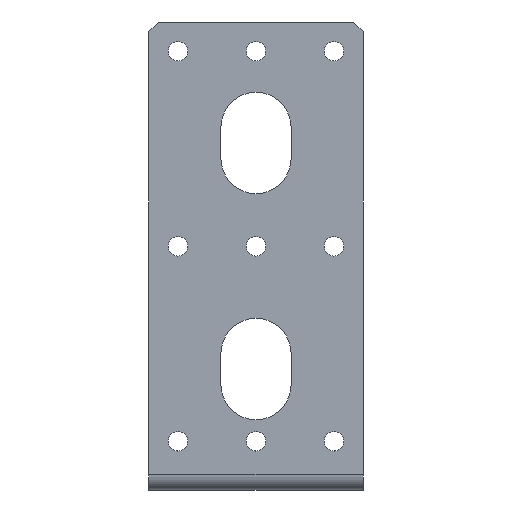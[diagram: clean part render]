
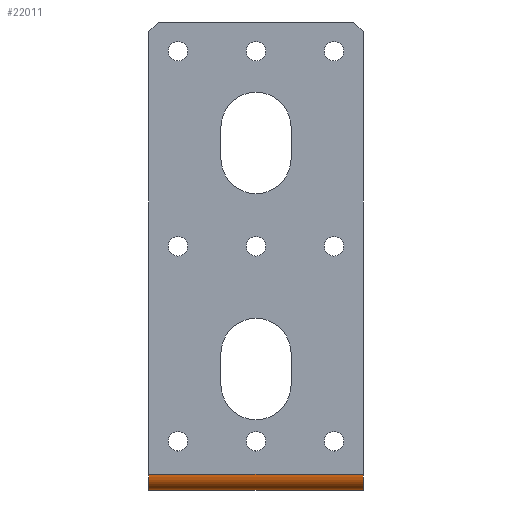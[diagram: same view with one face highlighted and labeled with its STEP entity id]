
A CAD part, front view. The second image highlights one B-rep face of the part: STEP entity #22011.
In plain terms, the highlighted cylindrical face has radius 4 mm (diameter 8 mm), a partial arc.
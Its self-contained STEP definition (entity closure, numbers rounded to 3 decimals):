
#2995 = ORIENTED_EDGE ( 'NONE', *, *, #13967, .T. ) ;
#5041 = DIRECTION ( 'NONE',  ( -1., 0., 0. ) ) ;
#5213 = CIRCLE ( 'NONE', #32818, 4. ) ;
#6012 = VERTEX_POINT ( 'NONE', #11774 ) ;
#6683 = AXIS2_PLACEMENT_3D ( 'NONE', #25290, #30699, #12289 ) ;
#8189 = LINE ( 'NONE', #32408, #17736 ) ;
#8547 = VERTEX_POINT ( 'NONE', #32555 ) ;
#10397 = EDGE_CURVE ( 'NONE', #14605, #15889, #30469, .T. ) ;
#11154 = DIRECTION ( 'NONE',  ( 0., -1., 0. ) ) ;
#11757 = ORIENTED_EDGE ( 'NONE', *, *, #10397, .T. ) ;
#11774 = CARTESIAN_POINT ( 'NONE',  ( 27.5, -134.758, -58.758 ) ) ;
#12094 = LINE ( 'NONE', #34432, #21631 ) ;
#12289 = DIRECTION ( 'NONE',  ( 0., -1., 0. ) ) ;
#12633 = CARTESIAN_POINT ( 'NONE',  ( -27.5, -134.758, -58.758 ) ) ;
#13967 = EDGE_CURVE ( 'NONE', #6012, #8547, #5213, .T. ) ;
#14605 = VERTEX_POINT ( 'NONE', #17010 ) ;
#15219 = DIRECTION ( 'NONE',  ( -1., 0., 0. ) ) ;
#15889 = VERTEX_POINT ( 'NONE', #12633 ) ;
#17010 = CARTESIAN_POINT ( 'NONE',  ( -27.5, -138.758, -54.758 ) ) ;
#17736 = VECTOR ( 'NONE', #35375, 1000. ) ;
#21631 = VECTOR ( 'NONE', #15219, 1000. ) ;
#21674 = CARTESIAN_POINT ( 'NONE',  ( 27.5, -134.758, -54.758 ) ) ;
#22011 = ADVANCED_FACE ( 'NONE', ( #24163 ), #25435, .T. ) ;
#22327 = AXIS2_PLACEMENT_3D ( 'NONE', #24652, #25004, #11154 ) ;
#24163 = FACE_OUTER_BOUND ( 'NONE', #26569, .T. ) ;
#24652 = CARTESIAN_POINT ( 'NONE',  ( -27.5, -134.758, -54.758 ) ) ;
#24930 = ORIENTED_EDGE ( 'NONE', *, *, #35514, .T. ) ;
#25004 = DIRECTION ( 'NONE',  ( 1., 0., 0. ) ) ;
#25290 = CARTESIAN_POINT ( 'NONE',  ( 0., -134.758, -54.758 ) ) ;
#25435 = CYLINDRICAL_SURFACE ( 'NONE', #6683, 4. ) ;
#26569 = EDGE_LOOP ( 'NONE', ( #24930, #11757, #28899, #2995 ) ) ;
#27712 = DIRECTION ( 'NONE',  ( 0., -1., 0. ) ) ;
#28899 = ORIENTED_EDGE ( 'NONE', *, *, #35562, .F. ) ;
#30469 = CIRCLE ( 'NONE', #22327, 4. ) ;
#30699 = DIRECTION ( 'NONE',  ( 1., 0., 0. ) ) ;
#32408 = CARTESIAN_POINT ( 'NONE',  ( 27.5, -134.758, -58.758 ) ) ;
#32555 = CARTESIAN_POINT ( 'NONE',  ( 27.5, -138.758, -54.758 ) ) ;
#32818 = AXIS2_PLACEMENT_3D ( 'NONE', #21674, #5041, #27712 ) ;
#34432 = CARTESIAN_POINT ( 'NONE',  ( 0., -138.758, -54.758 ) ) ;
#35375 = DIRECTION ( 'NONE',  ( -1., 0., 0. ) ) ;
#35514 = EDGE_CURVE ( 'NONE', #8547, #14605, #12094, .T. ) ;
#35562 = EDGE_CURVE ( 'NONE', #6012, #15889, #8189, .T. ) ;
